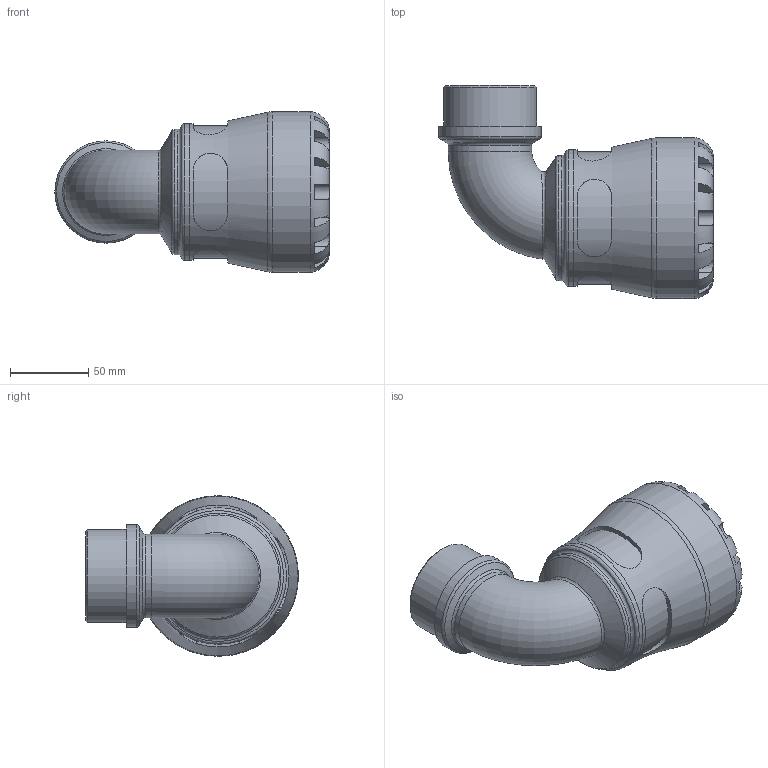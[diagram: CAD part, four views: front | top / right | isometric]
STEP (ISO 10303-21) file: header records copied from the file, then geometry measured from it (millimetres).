
FILE_DESCRIPTION(/* description */ ('PLASSON 90° ELBOW WITH MALE INTEGRAL BRASS 63X2" SERIES 1'),/* implementation_level */ '2;1');
FILE_NAME(/* name */ 'C:\Dropbox\KIMPROJECTS-Inventor\99-16-3568-Processing\S1\1077\107700063020_197700063020.ipt.stp',/* time_stamp */ '2018-05-13T11:03:47+03:00',/* author */ ('KIM'),/* organization */ (''),/* preprocessor_version */ 'ST-DEVELOPER v15.6',/* originating_system */ 'Autodesk Inventor 2015',/* authorisation */ '');
FILE_SCHEMA (('AUTOMOTIVE_DESIGN { 1 0 10303 214 3 1 1 }'));
Length unit declared in the file: millimetre
Products named in the file (1): 107700063020_197700063020
Bounding box: 175.79 x 136.5 x 103 mm (x, y, z)
Volume: 535639.5 mm3; surface area: 96815.6 mm2
Topology: 1 solids, 1 shells, 112 faces, 275 edges, 170 vertices
Faces by surface type: plane 60, cylinder 37, torus 9, cone 3, bspline 3
Full cylindrical faces by diameter (mm): 41.73 x2, 53.653 x1, 59.614 x1, 63 x1, 65.575 x1, 80.34 x1, 87.55 x1, 103 x1
Entity records: 4439 total; most frequent: CARTESIAN_POINT 1849, DIRECTION 495, ORIENTED_EDGE 492, EDGE_CURVE 246, AXIS2_PLACEMENT_3D 207, VERTEX_POINT 163, EDGE_LOOP 141, STYLED_ITEM 113
